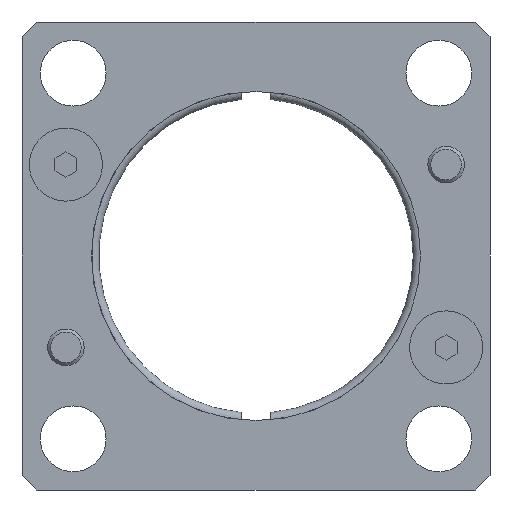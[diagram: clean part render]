
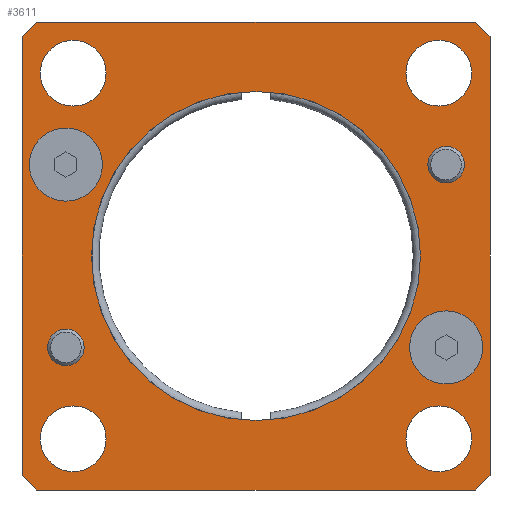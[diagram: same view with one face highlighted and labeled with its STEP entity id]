
A CAD part, front view. The second image highlights one B-rep face of the part: STEP entity #3611.
In plain terms, the highlighted planar face has unit normal (0, -1, 0) as drawn and (0, 0, -1) by its records, which use the part's own axes.
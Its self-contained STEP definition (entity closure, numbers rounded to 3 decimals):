
#307=FACE_BOUND('',#654,.T.);
#308=FACE_BOUND('',#655,.T.);
#309=FACE_BOUND('',#656,.T.);
#310=FACE_BOUND('',#657,.T.);
#311=FACE_BOUND('',#658,.T.);
#312=FACE_BOUND('',#659,.T.);
#313=FACE_BOUND('',#660,.T.);
#314=FACE_BOUND('',#661,.T.);
#315=FACE_BOUND('',#662,.T.);
#343=PLANE('',#3865);
#449=FACE_OUTER_BOUND('',#653,.T.);
#653=EDGE_LOOP('',(#2522,#2523,#2524,#2525,#2526,#2527,#2528,#2529));
#654=EDGE_LOOP('',(#2530));
#655=EDGE_LOOP('',(#2531));
#656=EDGE_LOOP('',(#2532));
#657=EDGE_LOOP('',(#2533));
#658=EDGE_LOOP('',(#2534));
#659=EDGE_LOOP('',(#2535));
#660=EDGE_LOOP('',(#2536));
#661=EDGE_LOOP('',(#2537));
#662=EDGE_LOOP('',(#2538));
#893=LINE('',#4734,#1234);
#894=LINE('',#4736,#1235);
#895=LINE('',#4738,#1236);
#896=LINE('',#4740,#1237);
#897=LINE('',#4742,#1238);
#898=LINE('',#4744,#1239);
#899=LINE('',#4746,#1240);
#900=LINE('',#4747,#1241);
#1234=VECTOR('',#4047,10.);
#1235=VECTOR('',#4048,10.);
#1236=VECTOR('',#4049,10.);
#1237=VECTOR('',#4050,10.);
#1238=VECTOR('',#4051,10.);
#1239=VECTOR('',#4052,10.);
#1240=VECTOR('',#4053,10.);
#1241=VECTOR('',#4054,10.);
#1574=CIRCLE('',#3863,5.);
#1576=CIRCLE('',#3866,5.);
#1577=CIRCLE('',#3867,2.5);
#1578=CIRCLE('',#3868,2.5);
#1579=CIRCLE('',#3869,22.5);
#1580=CIRCLE('',#3870,4.5);
#1581=CIRCLE('',#3871,4.5);
#1582=CIRCLE('',#3872,4.5);
#1583=CIRCLE('',#3873,4.5);
#1614=VERTEX_POINT('',#4726);
#1616=VERTEX_POINT('',#4732);
#1617=VERTEX_POINT('',#4733);
#1618=VERTEX_POINT('',#4735);
#1619=VERTEX_POINT('',#4737);
#1620=VERTEX_POINT('',#4739);
#1621=VERTEX_POINT('',#4741);
#1622=VERTEX_POINT('',#4743);
#1623=VERTEX_POINT('',#4745);
#1624=VERTEX_POINT('',#4748);
#1625=VERTEX_POINT('',#4750);
#1626=VERTEX_POINT('',#4752);
#1627=VERTEX_POINT('',#4754);
#1628=VERTEX_POINT('',#4756);
#1629=VERTEX_POINT('',#4758);
#1630=VERTEX_POINT('',#4760);
#1631=VERTEX_POINT('',#4762);
#1975=EDGE_CURVE('',#1614,#1614,#1574,.T.);
#1978=EDGE_CURVE('',#1616,#1617,#893,.T.);
#1979=EDGE_CURVE('',#1616,#1618,#894,.T.);
#1980=EDGE_CURVE('',#1619,#1618,#895,.T.);
#1981=EDGE_CURVE('',#1619,#1620,#896,.T.);
#1982=EDGE_CURVE('',#1621,#1620,#897,.T.);
#1983=EDGE_CURVE('',#1621,#1622,#898,.T.);
#1984=EDGE_CURVE('',#1623,#1622,#899,.T.);
#1985=EDGE_CURVE('',#1623,#1617,#900,.T.);
#1986=EDGE_CURVE('',#1624,#1624,#1576,.T.);
#1987=EDGE_CURVE('',#1625,#1625,#1577,.T.);
#1988=EDGE_CURVE('',#1626,#1626,#1578,.T.);
#1989=EDGE_CURVE('',#1627,#1627,#1579,.T.);
#1990=EDGE_CURVE('',#1628,#1628,#1580,.T.);
#1991=EDGE_CURVE('',#1629,#1629,#1581,.T.);
#1992=EDGE_CURVE('',#1630,#1630,#1582,.T.);
#1993=EDGE_CURVE('',#1631,#1631,#1583,.T.);
#2522=ORIENTED_EDGE('',*,*,#1978,.F.);
#2523=ORIENTED_EDGE('',*,*,#1979,.T.);
#2524=ORIENTED_EDGE('',*,*,#1980,.F.);
#2525=ORIENTED_EDGE('',*,*,#1981,.T.);
#2526=ORIENTED_EDGE('',*,*,#1982,.F.);
#2527=ORIENTED_EDGE('',*,*,#1983,.T.);
#2528=ORIENTED_EDGE('',*,*,#1984,.F.);
#2529=ORIENTED_EDGE('',*,*,#1985,.T.);
#2530=ORIENTED_EDGE('',*,*,#1986,.F.);
#2531=ORIENTED_EDGE('',*,*,#1987,.T.);
#2532=ORIENTED_EDGE('',*,*,#1988,.T.);
#2533=ORIENTED_EDGE('',*,*,#1989,.T.);
#2534=ORIENTED_EDGE('',*,*,#1990,.T.);
#2535=ORIENTED_EDGE('',*,*,#1991,.T.);
#2536=ORIENTED_EDGE('',*,*,#1992,.T.);
#2537=ORIENTED_EDGE('',*,*,#1993,.T.);
#2538=ORIENTED_EDGE('',*,*,#1975,.F.);
#3611=ADVANCED_FACE('',(#449,#307,#308,#309,#310,#311,#312,#313,#314,#315),
#343,.F.);
#3863=AXIS2_PLACEMENT_3D('',#4727,#4040,#4041);
#3865=AXIS2_PLACEMENT_3D('',#4731,#4045,#4046);
#3866=AXIS2_PLACEMENT_3D('',#4749,#4055,#4056);
#3867=AXIS2_PLACEMENT_3D('',#4751,#4057,#4058);
#3868=AXIS2_PLACEMENT_3D('',#4753,#4059,#4060);
#3869=AXIS2_PLACEMENT_3D('',#4755,#4061,#4062);
#3870=AXIS2_PLACEMENT_3D('',#4757,#4063,#4064);
#3871=AXIS2_PLACEMENT_3D('',#4759,#4065,#4066);
#3872=AXIS2_PLACEMENT_3D('',#4761,#4067,#4068);
#3873=AXIS2_PLACEMENT_3D('',#4763,#4069,#4070);
#4040=DIRECTION('center_axis',(0.,0.,-1.));
#4041=DIRECTION('ref_axis',(1.,0.,0.));
#4045=DIRECTION('center_axis',(0.,0.,1.));
#4046=DIRECTION('ref_axis',(1.,0.,0.));
#4047=DIRECTION('',(0.707,0.707,0.));
#4048=DIRECTION('',(-1.,0.,0.));
#4049=DIRECTION('',(0.707,-0.707,0.));
#4050=DIRECTION('',(0.,1.,0.));
#4051=DIRECTION('',(-0.707,-0.707,0.));
#4052=DIRECTION('',(1.,0.,0.));
#4053=DIRECTION('',(-0.707,0.707,0.));
#4054=DIRECTION('',(0.,-1.,0.));
#4055=DIRECTION('center_axis',(0.,0.,-1.));
#4056=DIRECTION('ref_axis',(1.,0.,0.));
#4057=DIRECTION('center_axis',(0.,0.,1.));
#4058=DIRECTION('ref_axis',(1.,0.,0.));
#4059=DIRECTION('center_axis',(0.,0.,1.));
#4060=DIRECTION('ref_axis',(1.,0.,0.));
#4061=DIRECTION('center_axis',(0.,0.,1.));
#4062=DIRECTION('ref_axis',(-1.,0.,0.));
#4063=DIRECTION('center_axis',(0.,0.,1.));
#4064=DIRECTION('ref_axis',(-1.,0.,0.));
#4065=DIRECTION('center_axis',(0.,0.,1.));
#4066=DIRECTION('ref_axis',(-1.,0.,0.));
#4067=DIRECTION('center_axis',(0.,0.,1.));
#4068=DIRECTION('ref_axis',(-1.,0.,0.));
#4069=DIRECTION('center_axis',(0.,0.,1.));
#4070=DIRECTION('ref_axis',(-1.,0.,0.));
#4726=CARTESIAN_POINT('',(21.,12.5,0.));
#4727=CARTESIAN_POINT('Origin',(26.,12.5,0.));
#4731=CARTESIAN_POINT('Origin',(0.,0.,
0.));
#4732=CARTESIAN_POINT('',(30.,-32.,0.));
#4733=CARTESIAN_POINT('',(32.,-30.,0.));
#4734=CARTESIAN_POINT('',(31.,-31.,0.));
#4735=CARTESIAN_POINT('',(-30.,-32.,0.));
#4736=CARTESIAN_POINT('',(32.,-32.,0.));
#4737=CARTESIAN_POINT('',(-32.,-30.,0.));
#4738=CARTESIAN_POINT('',(-31.,-31.,0.));
#4739=CARTESIAN_POINT('',(-32.,30.,0.));
#4740=CARTESIAN_POINT('',(-32.,-32.,0.));
#4741=CARTESIAN_POINT('',(-30.,32.,0.));
#4742=CARTESIAN_POINT('',(-31.,31.,0.));
#4743=CARTESIAN_POINT('',(30.,32.,0.));
#4744=CARTESIAN_POINT('',(-32.,32.,0.));
#4745=CARTESIAN_POINT('',(32.,30.,0.));
#4746=CARTESIAN_POINT('',(31.,31.,0.));
#4747=CARTESIAN_POINT('',(32.,32.,0.));
#4748=CARTESIAN_POINT('',(-31.,-12.5,0.));
#4749=CARTESIAN_POINT('Origin',(-26.,-12.5,0.));
#4750=CARTESIAN_POINT('',(23.5,-12.5,0.));
#4751=CARTESIAN_POINT('Origin',(26.,-12.5,0.));
#4752=CARTESIAN_POINT('',(-28.5,12.5,0.));
#4753=CARTESIAN_POINT('Origin',(-26.,12.5,0.));
#4754=CARTESIAN_POINT('',(22.5,0.,0.));
#4755=CARTESIAN_POINT('Origin',(0.,0.,0.));
#4756=CARTESIAN_POINT('',(29.5,-25.,0.));
#4757=CARTESIAN_POINT('Origin',(25.,-25.,0.));
#4758=CARTESIAN_POINT('',(-20.5,-25.,0.));
#4759=CARTESIAN_POINT('Origin',(-25.,-25.,0.));
#4760=CARTESIAN_POINT('',(29.5,25.,0.));
#4761=CARTESIAN_POINT('Origin',(25.,25.,0.));
#4762=CARTESIAN_POINT('',(-20.5,25.,0.));
#4763=CARTESIAN_POINT('Origin',(-25.,25.,0.));
